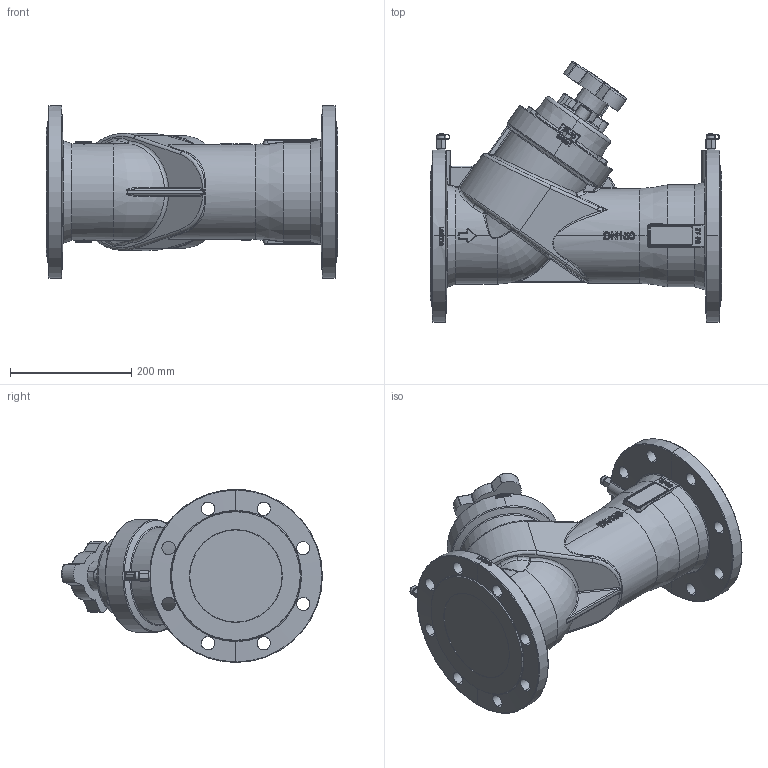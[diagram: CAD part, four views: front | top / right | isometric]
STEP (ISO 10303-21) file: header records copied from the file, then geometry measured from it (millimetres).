
FILE_DESCRIPTION (( 'STEP AP203' ), '1' );
FILE_NAME ('EKOFLUX.S015016P.STEP', '2021-09-14T07:16:13', ( '' ), ( '' ), 'SwSTEP 2.0', 'SolidWorks 2017', '' );
FILE_SCHEMA (( 'CONFIG_CONTROL_DESIGN' ));
Length unit declared in the file: millimetre
Products named in the file (1): EKOFLUX.S015016P
Bounding box: 480 x 429.71 x 285 mm (x, y, z)
Volume: 15391449.6 mm3; surface area: 661164.4 mm2
Topology: 1 solids, 21 shells, 1783 faces, 4436 edges, 2739 vertices
Faces by surface type: bspline 602, plane 493, cylinder 351, cone 186, torus 109, sphere 42
Entity records: 83650 total; most frequent: CARTESIAN_POINT 46346, ORIENTED_EDGE 8780, DIRECTION 6139, EDGE_CURVE 4390, VERTEX_POINT 2739, AXIS2_PLACEMENT_3D 2339, EDGE_LOOP 1921, FACE_OUTER_BOUND 1783
